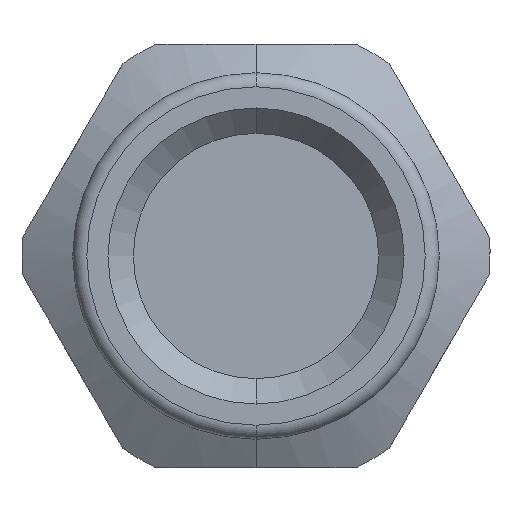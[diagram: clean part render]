
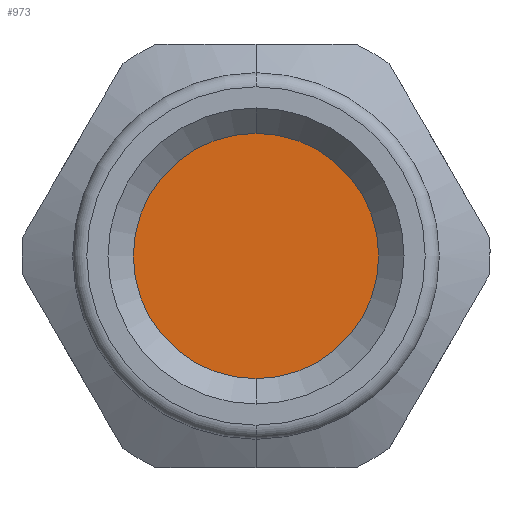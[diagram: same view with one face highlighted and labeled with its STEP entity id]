
A CAD part, front view. The second image highlights one B-rep face of the part: STEP entity #973.
In plain terms, the highlighted planar face has unit normal (0, -1, 0).
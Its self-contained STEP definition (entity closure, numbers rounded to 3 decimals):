
#8 = PLANE ( 'NONE',  #1425 ) ;
#19 = CARTESIAN_POINT ( 'NONE',  ( 0., 8.5, -4.35 ) ) ;
#35 = FACE_OUTER_BOUND ( 'NONE', #1026, .T. ) ;
#90 = DIRECTION ( 'NONE',  ( 0., -1., 0. ) ) ;
#296 = DIRECTION ( 'NONE',  ( 0., 0., -1. ) ) ;
#566 = ORIENTED_EDGE ( 'NONE', *, *, #1712, .T. ) ;
#577 = CARTESIAN_POINT ( 'NONE',  ( 0., 8.5, 0. ) ) ;
#614 = CARTESIAN_POINT ( 'NONE',  ( 0., 8.5, 0. ) ) ;
#667 = AXIS2_PLACEMENT_3D ( 'NONE', #614, #1485, #947 ) ;
#684 = AXIS2_PLACEMENT_3D ( 'NONE', #577, #1329, #705 ) ;
#695 = VERTEX_POINT ( 'NONE', #739 ) ;
#705 = DIRECTION ( 'NONE',  ( 0., 0., -1. ) ) ;
#739 = CARTESIAN_POINT ( 'NONE',  ( 0., 8.5, 4.35 ) ) ;
#832 = ORIENTED_EDGE ( 'NONE', *, *, #1675, .T. ) ;
#916 = CIRCLE ( 'NONE', #667, 4.35 ) ;
#947 = DIRECTION ( 'NONE',  ( 0., 0., -1. ) ) ;
#973 = ADVANCED_FACE ( 'Defeature completata1_36', ( #35 ), #8, .T. ) ;
#1026 = EDGE_LOOP ( 'NONE', ( #566, #832 ) ) ;
#1262 = CARTESIAN_POINT ( 'NONE',  ( 0., 8.5, 0. ) ) ;
#1329 = DIRECTION ( 'NONE',  ( 0., -1., 0. ) ) ;
#1390 = VERTEX_POINT ( 'NONE', #19 ) ;
#1425 = AXIS2_PLACEMENT_3D ( 'NONE', #1262, #90, #296 ) ;
#1485 = DIRECTION ( 'NONE',  ( 0., -1., 0. ) ) ;
#1667 = CIRCLE ( 'NONE', #684, 4.35 ) ;
#1675 = EDGE_CURVE ( 'Defeature completata1_36+Defeature completata1_38+Defeature completata1_38+Defeature completata1_38', #695, #1390, #1667, .T. ) ;
#1712 = EDGE_CURVE ( 'Defeature completata1_36+Defeature completata1_38+Defeature completata1_38+Defeature completata1_38', #1390, #695, #916, .T. ) ;
